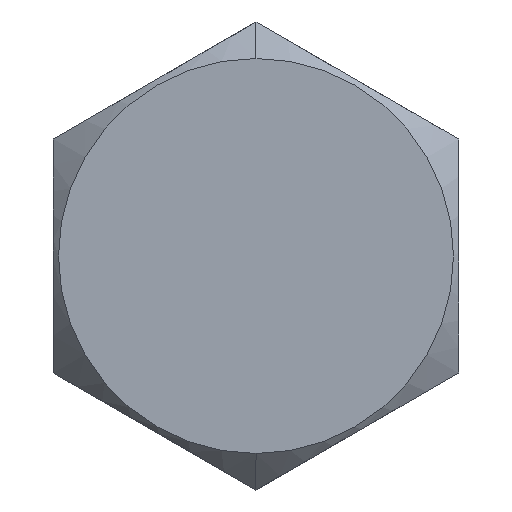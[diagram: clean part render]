
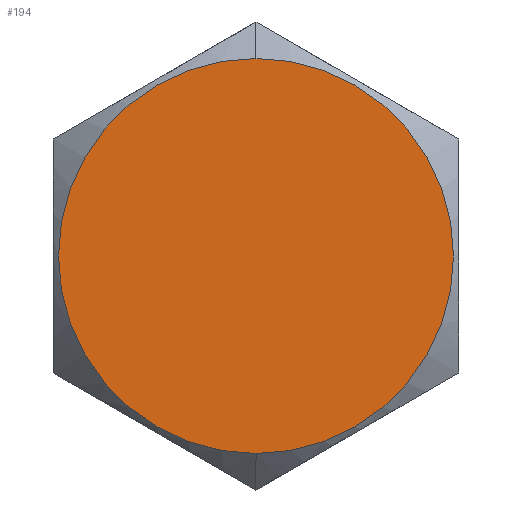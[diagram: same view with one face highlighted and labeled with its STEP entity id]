
A CAD part, left-side view. The second image highlights one B-rep face of the part: STEP entity #194.
In plain terms, the highlighted planar face has unit normal (-1, 0, 0).
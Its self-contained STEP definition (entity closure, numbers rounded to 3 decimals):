
#29 = DIRECTION ( 'NONE',  ( 0., 0., -1. ) ) ;
#37 = VERTEX_POINT ( 'NONE', #753 ) ;
#84 = CIRCLE ( 'NONE', #646, 4.874 ) ;
#97 = DIRECTION ( 'NONE',  ( 1., 0., 0. ) ) ;
#125 = AXIS2_PLACEMENT_3D ( 'NONE', #513, #97, #29 ) ;
#126 = VERTEX_POINT ( 'NONE', #247 ) ;
#167 = DIRECTION ( 'NONE',  ( 0., 0., -1. ) ) ;
#194 = ADVANCED_FACE ( 'NONE', ( #203 ), #572, .F. ) ;
#203 = FACE_OUTER_BOUND ( 'NONE', #349, .T. ) ;
#224 = EDGE_CURVE ( 'NONE', #37, #126, #334, .T. ) ;
#247 = CARTESIAN_POINT ( 'NONE',  ( 0., 0., 4.874 ) ) ;
#288 = CARTESIAN_POINT ( 'NONE',  ( 0., 0., 0. ) ) ;
#334 = CIRCLE ( 'NONE', #125, 4.874 ) ;
#343 = EDGE_CURVE ( 'NONE', #126, #37, #84, .T. ) ;
#344 = ORIENTED_EDGE ( 'NONE', *, *, #224, .F. ) ;
#349 = EDGE_LOOP ( 'NONE', ( #344, #691 ) ) ;
#370 = AXIS2_PLACEMENT_3D ( 'NONE', #449, #714, #637 ) ;
#420 = DIRECTION ( 'NONE',  ( 1., 0., 0. ) ) ;
#449 = CARTESIAN_POINT ( 'NONE',  ( 0., 0., 0. ) ) ;
#513 = CARTESIAN_POINT ( 'NONE',  ( 0., 0., 0. ) ) ;
#572 = PLANE ( 'NONE',  #370 ) ;
#637 = DIRECTION ( 'NONE',  ( 0., 0., -1. ) ) ;
#646 = AXIS2_PLACEMENT_3D ( 'NONE', #288, #420, #167 ) ;
#691 = ORIENTED_EDGE ( 'NONE', *, *, #343, .F. ) ;
#714 = DIRECTION ( 'NONE',  ( 1., 0., 0. ) ) ;
#753 = CARTESIAN_POINT ( 'NONE',  ( 0., 0., -4.874 ) ) ;
